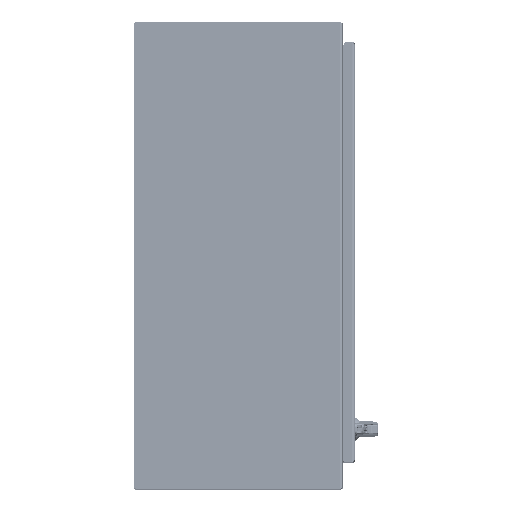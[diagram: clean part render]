
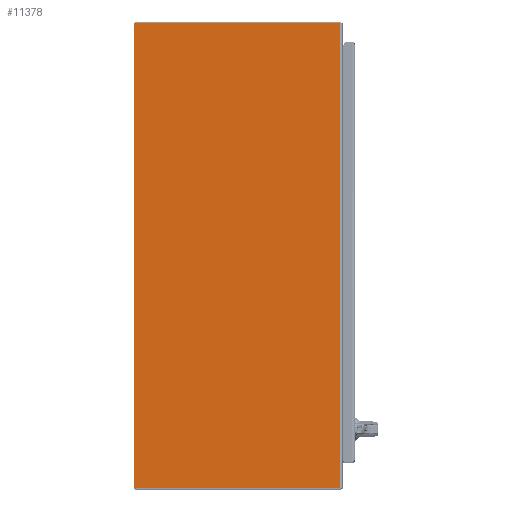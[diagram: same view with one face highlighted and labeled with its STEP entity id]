
A CAD part, top view. The second image highlights one B-rep face of the part: STEP entity #11378.
In plain terms, the highlighted planar face has unit normal (0, 0, 1) as drawn and (0, 1, 0) by its records, which use the part's own axes.
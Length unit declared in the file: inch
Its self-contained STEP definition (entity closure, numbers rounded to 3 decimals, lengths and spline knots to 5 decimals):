
#10593=CARTESIAN_POINT('',(-17.888,0.,-20.013));
#10594=DIRECTION('',(0.,1.,0.));
#10595=DIRECTION('',(0.,0.,-1.));
#10596=AXIS2_PLACEMENT_3D('',#10593,#10594,#10595);
#10601=CARTESIAN_POINT('',(-17.888,0.,20.013));
#10602=DIRECTION('',(0.,1.,0.));
#10603=DIRECTION('',(-1.,0.,0.));
#10604=AXIS2_PLACEMENT_3D('',#10601,#10602,#10603);
#10616=DIRECTION('',(0.,0.,-1.));
#10617=VECTOR('',#10616,40.026);
#10618=CARTESIAN_POINT('',(-17.948,0.,20.013));
#10619=LINE('',#10618,#10617);
#10644=DIRECTION('',(-1.,0.,0.));
#10645=VECTOR('',#10644,17.6415);
#10646=CARTESIAN_POINT('',(-0.2465,0.,20.073));
#10647=LINE('',#10646,#10645);
#10687=DIRECTION('',(0.,0.,1.));
#10688=VECTOR('',#10687,40.146);
#10689=CARTESIAN_POINT('',(-0.2465,0.,-20.073));
#10690=LINE('',#10689,#10688);
#10795=DIRECTION('',(-1.,0.,0.));
#10796=VECTOR('',#10795,17.6415);
#10797=CARTESIAN_POINT('',(-0.2465,0.,-20.073));
#10798=LINE('',#10797,#10796);
#11263=CARTESIAN_POINT('',(-0.2465,0.,20.073));
#11264=VERTEX_POINT('',#11263);
#11265=CARTESIAN_POINT('',(-0.2465,0.,-20.073));
#11266=VERTEX_POINT('',#11265);
#11291=CARTESIAN_POINT('',(-17.888,0.,-20.073));
#11292=CARTESIAN_POINT('',(-17.948,0.,-20.013));
#11293=VERTEX_POINT('',#11291);
#11294=VERTEX_POINT('',#11292);
#11299=CARTESIAN_POINT('',(-17.948,0.,20.013));
#11300=CARTESIAN_POINT('',(-17.888,0.,20.073));
#11301=VERTEX_POINT('',#11299);
#11302=VERTEX_POINT('',#11300);
#11359=CARTESIAN_POINT('',(0.,0.,20.073));
#11360=DIRECTION('',(0.,1.,0.));
#11361=DIRECTION('',(-1.,0.,0.));
#11362=AXIS2_PLACEMENT_3D('',#11359,#11360,#11361);
#11363=PLANE('',#11362);
#11365=ORIENTED_EDGE('',*,*,#11364,.F.);
#11367=ORIENTED_EDGE('',*,*,#11366,.F.);
#11369=ORIENTED_EDGE('',*,*,#11368,.T.);
#11371=ORIENTED_EDGE('',*,*,#11370,.T.);
#11373=ORIENTED_EDGE('',*,*,#11372,.F.);
#11375=ORIENTED_EDGE('',*,*,#11374,.T.);
#11376=EDGE_LOOP('',(#11365,#11367,#11369,#11371,#11373,#11375));
#11377=FACE_OUTER_BOUND('',#11376,.F.);
#10597=CIRCLE('',#10596,0.06);
#10605=CIRCLE('',#10604,0.06);
#11364=EDGE_CURVE('',#11293,#11294,#10597,.T.);
#11366=EDGE_CURVE('',#11266,#11293,#10798,.T.);
#11368=EDGE_CURVE('',#11266,#11264,#10690,.T.);
#11370=EDGE_CURVE('',#11264,#11302,#10647,.T.);
#11372=EDGE_CURVE('',#11301,#11302,#10605,.T.);
#11374=EDGE_CURVE('',#11301,#11294,#10619,.T.);
#11378=ADVANCED_FACE('',(#11377),#11363,.T.);
